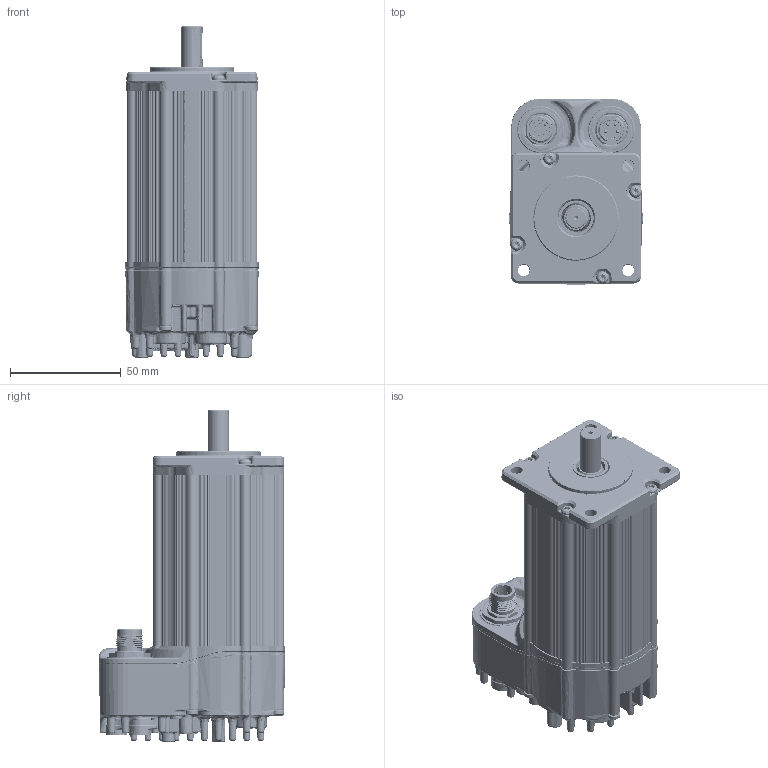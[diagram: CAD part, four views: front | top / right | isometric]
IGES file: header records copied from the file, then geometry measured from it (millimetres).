
Start section: SolidWorks IGES file using analytic representation for surfaces
Global section: file name: C:\TeknicPDM\EtherPath CPM-S\EtherPath CPM-S Customer Files\CPM-S Customer Models\CPMS 233x.IGS; native system: SolidWorks 2020; preprocessor: SolidWorks 2020; author: mike_berezny; date: 230808.151018; units: inch
Bounding box: 60.26 x 84.12 x 149.81 mm (x, y, z)
Surface area: 126736 mm2 (no closed solid volume)
Topology: 0 solids, 0 shells, 11323 faces, 101691 edges, 101111 vertices
Faces by surface type: bspline 5870, revolution 5453
